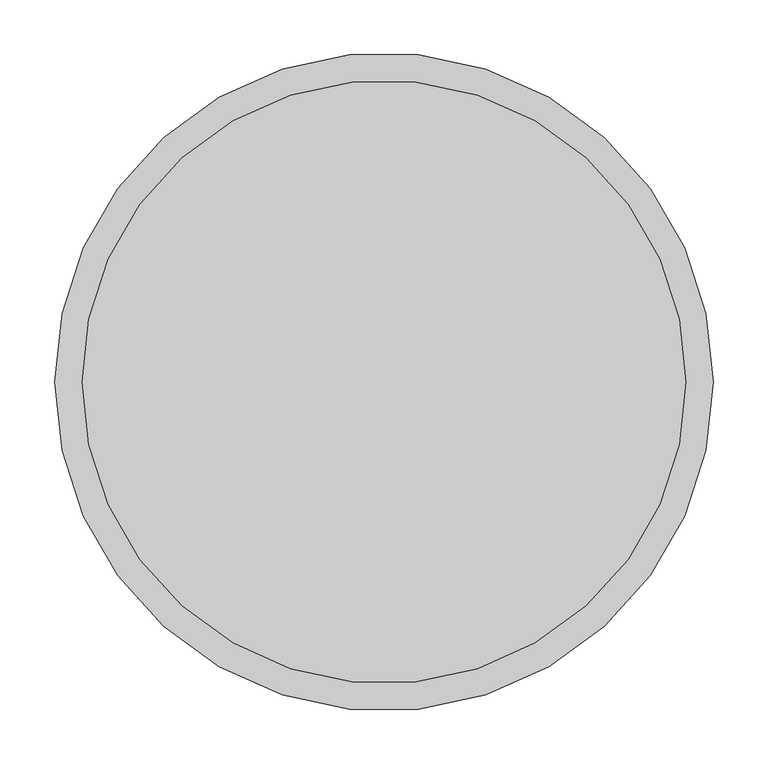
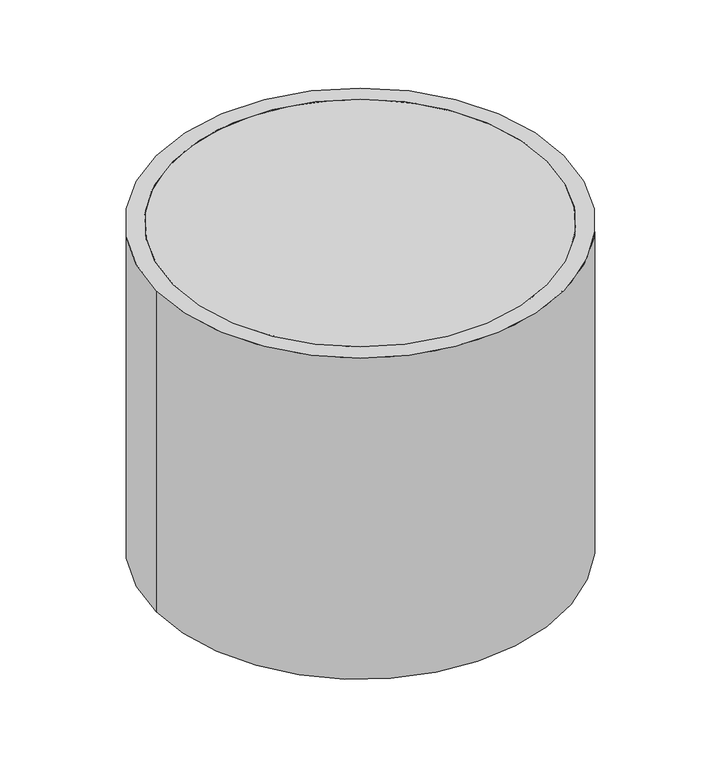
"""IFC4 building model written with IfcOpenShell, lengths in millimetres: proxy geometry, Technikschacht Schwachstrom : Technikschacht."""

import ifcopenshell
import ifcopenshell.guid

model = None  # the IFC model being written
_history = None  # IfcOwnerHistory: only IFC2X3 demands one
_inside = {}  # id of a spatial element -> (the spatial element, [elements in it])
_under = {}  # id of a project, library or spatial element -> (it, [spatial elements below it])
_declared = {}  # id of a project -> (the project, [libraries it declares])
_typed = {}  # id of a type object -> (the type object, [elements of that type])
_made_of = {}  # id of a material, layer set ... -> (it, [elements and type objects made of it])


def new_model(schema):
    """Start an empty IFC model of exactly this schema.

    Asked for "IFC4X3", IfcOpenShell would pick the latest addendum, in which some entities
    have other attributes; the version numbers below select the first issue.
    IFC2X3 requires an IfcOwnerHistory on every rooted entity: one is made here for all.
    """
    global model, _history
    if schema == "IFC4X3":
        model = ifcopenshell.file(schema_version=(4, 3, 0, 0))
    else:
        model = ifcopenshell.file(schema=schema)
    _inside.clear()
    _under.clear()
    _declared.clear()
    _typed.clear()
    _made_of.clear()
    _history = None
    if model.schema == "IFC2X3":
        org = make("IfcOrganization", Name="unknown")
        user = make(
            "IfcPersonAndOrganization",
            ThePerson=make("IfcPerson", FamilyName="unknown"),
            TheOrganization=org,
        )
        app = make(
            "IfcApplication",
            ApplicationDeveloper=org,
            Version="unknown",
            ApplicationFullName="unknown",
            ApplicationIdentifier="unknown",
        )
        _history = make(
            "IfcOwnerHistory",
            OwningUser=user,
            OwningApplication=app,
            ChangeAction="ADDED",
            CreationDate=0,
        )
    return model


def make(cls, **values):
    """One entity of the class cls with the attributes given. An attribute that is None is left unset."""
    return model.create_entity(
        cls, **{name: value for name, value in values.items() if value is not None}
    )


def rooted(cls, **values):
    """An entity with a GlobalId (a new one), such as an element, a storey or a relation."""
    return make(cls, GlobalId=ifcopenshell.guid.new(), OwnerHistory=_history, **values)


def si_unit(unit_type, name, prefix=None):
    """IfcSIUnit, for example si_unit("LENGTHUNIT", "METRE", prefix="MILLI")."""
    return make("IfcSIUnit", UnitType=unit_type, Prefix=prefix, Name=name)


def assignment(units):
    """IfcUnitAssignment: the units of a project."""
    return None if units is None else make("IfcUnitAssignment", Units=units)


def point(xyz):
    """IfcCartesianPoint."""
    return None if xyz is None else make("IfcCartesianPoint", Coordinates=xyz)


def direction(xyz):
    """IfcDirection."""
    return None if xyz is None else make("IfcDirection", DirectionRatios=xyz)


def frame(location, z_axis=None, x_axis=None):
    """IfcAxis2Placement3D, a coordinate frame: its origin and axes. An axis left out is left unset."""
    return make(
        "IfcAxis2Placement3D",
        Location=point(location),
        Axis=direction(z_axis),
        RefDirection=direction(x_axis),
    )


def frame_2d(location, x_axis=None):
    """IfcAxis2Placement2D, a coordinate frame in the plane: its origin and x axis."""
    return make(
        "IfcAxis2Placement2D", Location=point(location), RefDirection=direction(x_axis)
    )


def origin():
    """The frame at (0, 0, 0) with its axes left unset."""
    return frame((0.0, 0.0, 0.0))


def origin_2d():
    """The frame at (0, 0) in the plane with its x axis left unset."""
    return frame_2d((0.0, 0.0))


def place(relative_to, where):
    """IfcLocalPlacement: puts the frame where relative to a parent placement (None: the world)."""
    return make(
        "IfcLocalPlacement", PlacementRelTo=relative_to, RelativePlacement=where
    )


def context(
    kind, dimensions, precision=None, world=None, true_north=None, identifier=None
):
    """IfcGeometricRepresentationContext, for example the 3D "Model" context."""
    return make(
        "IfcGeometricRepresentationContext",
        ContextIdentifier=identifier,
        ContextType=kind,
        CoordinateSpaceDimension=dimensions,
        Precision=precision,
        WorldCoordinateSystem=world,
        TrueNorth=true_north,
    )


def project(units=None, contexts=None):
    """IfcProject with its units and contexts."""
    return rooted(
        "IfcProject",
        Name="project",
        RepresentationContexts=contexts,
        UnitsInContext=assignment(units),
    )


def spatial(cls, under=None, at=None, **own):
    """A site, building, storey or space (cls), placed at a placement, below another one or the project."""
    s = rooted(cls, ObjectPlacement=at, **own)
    if under is not None:
        _under.setdefault(under.id(), (under, []))[1].append(s)
    return s


def circle_curve(where, radius):
    """IfcCircle in the frame where."""
    return make("IfcCircle", Position=where, Radius=radius)


def trimmed(basis, trim1, trim2, sense, master):
    """IfcTrimmedCurve: the piece of a basis curve between two trims."""
    return make(
        "IfcTrimmedCurve",
        BasisCurve=basis,
        Trim1=trim1,
        Trim2=trim2,
        SenseAgreement=sense,
        MasterRepresentation=master,
    )


def segment(curve, same_sense, transition):
    """IfcCompositeCurveSegment."""
    return make(
        "IfcCompositeCurveSegment",
        Transition=transition,
        SameSense=same_sense,
        ParentCurve=curve,
    )


def composite_curve(segments, self_intersect=None):
    """IfcCompositeCurve: segments joined end to end."""
    return make("IfcCompositeCurve", Segments=segments, SelfIntersect=self_intersect)


def outline(outer, holes=None, kind="AREA"):
    """IfcArbitraryClosedProfileDef: a profile drawn as a closed curve; with holes, ...WithVoids."""
    if holes is None:
        return make("IfcArbitraryClosedProfileDef", ProfileType=kind, OuterCurve=outer)
    return make(
        "IfcArbitraryProfileDefWithVoids",
        ProfileType=kind,
        OuterCurve=outer,
        InnerCurves=holes,
    )


def extrude(swept, where, along, depth):
    """IfcExtrudedAreaSolid: the profile swept, set in the frame where, extruded along a direction by depth."""
    return make(
        "IfcExtrudedAreaSolid",
        SweptArea=swept,
        Position=where,
        ExtrudedDirection=direction(along),
        Depth=depth,
    )


def shape(context_of_items, identifier, shape_type, items):
    """IfcShapeRepresentation: the items that make up one representation, for example the "Body"."""
    return make(
        "IfcShapeRepresentation",
        ContextOfItems=context_of_items,
        RepresentationIdentifier=identifier,
        RepresentationType=shape_type,
        Items=items,
    )


def source(mapping_origin, context_of_items, identifier, shape_type, items):
    """IfcRepresentationMap: a shape defined once, which mapped items show again and again."""
    return make(
        "IfcRepresentationMap",
        MappingOrigin=mapping_origin,
        MappedRepresentation=shape(context_of_items, identifier, shape_type, items),
    )


def transform(
    local_origin,
    x_axis=None,
    y_axis=None,
    z_axis=None,
    scale=None,
    scale2=None,
    scale3=None,
    uniform=True,
):
    """IfcCartesianTransformationOperator3D, or its non-uniform kind. x_axis, y_axis, z_axis: its Axis1, 2, 3."""
    if uniform:
        return make(
            "IfcCartesianTransformationOperator3D",
            Axis1=direction(x_axis),
            Axis2=direction(y_axis),
            LocalOrigin=point(local_origin),
            Scale=scale,
            Axis3=direction(z_axis),
        )
    return make(
        "IfcCartesianTransformationOperator3DnonUniform",
        Axis1=direction(x_axis),
        Axis2=direction(y_axis),
        LocalOrigin=point(local_origin),
        Scale=scale,
        Axis3=direction(z_axis),
        Scale2=scale2,
        Scale3=scale3,
    )


def mapped(mapping_source, mapping_target):
    """IfcMappedItem: shows the shape of a source again, moved by a transform."""
    return make(
        "IfcMappedItem", MappingSource=mapping_source, MappingTarget=mapping_target
    )


def made_of(thing, what):
    """Note that an element or type object is made of a material, layer set ...; save() writes the relation."""
    if what is not None:
        _made_of.setdefault(what.id(), (what, []))[1].append(thing)
    return thing


def element(
    cls,
    number,
    at=None,
    inside=None,
    cuts=None,
    type_object=None,
    material=None,
    context=None,
    identifier="Body",
    shape_type=None,
    held_by="IfcProductDefinitionShape",
    body=None,
    shapes=None,
    **own,
):
    """One element of the class cls, such as IfcWall. Its Tag is "e" and its number.

    at: its placement. inside: the storey or other place that contains it. cuts: it is an
    opening in that element (IfcRelVoidsElement). A single representation is given by context,
    identifier, shape_type and body (its items); several are given by shapes. held_by: the class
    of the entity that holds the representations. save() writes the other relations.
    """
    e = rooted(cls, Tag="e%d" % number, ObjectPlacement=at, **own)
    if body is not None:
        shapes = [shape(context, identifier, shape_type, body)]
    if shapes is not None:
        e.Representation = make(held_by, Representations=shapes)
    if inside is not None:
        _inside.setdefault(inside.id(), (inside, []))[1].append(e)
    if cuts is not None:
        rooted(
            "IfcRelVoidsElement", RelatingBuildingElement=cuts, RelatedOpeningElement=e
        )
    if type_object is not None:
        _typed.setdefault(type_object.id(), (type_object, []))[1].append(e)
    return made_of(e, material)


def aggregate(whole, parts):
    """IfcRelAggregates: a whole, such as a stair, and the parts it consists of."""
    return rooted("IfcRelAggregates", RelatingObject=whole, RelatedObjects=parts)


def save(model, path):
    """Write the relations noted so far, then the file.

    IfcRelAggregates (storeys below a building ...), IfcRelContainedInSpatialStructure (elements
    in a storey), IfcRelDefinesByType, IfcRelAssociatesMaterial and IfcRelDeclares: one each for
    every whole, place, type object, material and project.
    """
    for whole, parts in _under.values():
        aggregate(whole, parts)
    for where, things in _inside.values():
        rooted(
            "IfcRelContainedInSpatialStructure",
            RelatedElements=things,
            RelatingStructure=where,
        )
    for kind, things in _typed.values():
        rooted("IfcRelDefinesByType", RelatedObjects=things, RelatingType=kind)
    for what, things in _made_of.values():
        rooted("IfcRelAssociatesMaterial", RelatedObjects=things, RelatingMaterial=what)
    for by, libraries in _declared.values():
        rooted("IfcRelDeclares", RelatingContext=by, RelatedDefinitions=libraries)
    model.write(path)


def electrical_fixtures_4c376501(model_context):
    return source(origin(), model_context, "Body", "SweptSolid", [
        extrude(outline(composite_curve([segment(trimmed(circle_curve(origin_2d(), 300.0), [point((-300.0, 0.0))], [point((300.0, 0.0))], False, "CARTESIAN"), True, "CONTINUOUS"), segment(trimmed(circle_curve(origin_2d(), 300.0), [point((300.0, 0.0))], [point((-300.0, 0.0))], False, "CARTESIAN"), True, "CONTINUOUS")], self_intersect=False), holes=[composite_curve([segment(trimmed(circle_curve(origin_2d(), 275.0), [point((-275.0, 0.0))], [point((275.0, 0.0))], True, "CARTESIAN"), True, "CONTINUOUS"), segment(trimmed(circle_curve(origin_2d(), 275.0), [point((275.0, 0.0))], [point((-275.0, 0.0))], True, "CARTESIAN"), True, "CONTINUOUS")], self_intersect=False)]), frame((0.0, 0.0, -500.0), z_axis=(0.0, 0.0, 1.0), x_axis=(1.0, 0.0, 0.0)), (0.0, 0.0, 1.0), 500.0),
        extrude(outline(composite_curve([segment(trimmed(circle_curve(origin_2d(), 275.0), [point((-275.0, 0.0))], [point((275.0, 0.0))], False, "CARTESIAN"), True, "CONTINUOUS"), segment(trimmed(circle_curve(origin_2d(), 275.0), [point((275.0, 0.0))], [point((-275.0, 0.0))], False, "CARTESIAN"), True, "CONTINUOUS")], self_intersect=False)), frame((0.0, 0.0, -500.0), z_axis=(0.0, 0.0, 1.0), x_axis=(1.0, 0.0, 0.0)), (0.0, 0.0, 1.0), 50.0),
        extrude(outline(composite_curve([segment(trimmed(circle_curve(origin_2d(), 275.0), [point((-275.0, 0.0))], [point((275.0, 0.0))], False, "CARTESIAN"), True, "CONTINUOUS"), segment(trimmed(circle_curve(origin_2d(), 275.0), [point((275.0, 0.0))], [point((-275.0, 0.0))], False, "CARTESIAN"), True, "CONTINUOUS")], self_intersect=False)), frame((0.0, 0.0, -61.0584239), z_axis=(0.0, 0.0, 1.0), x_axis=(1.0, 0.0, 0.0)), (0.0, 0.0, 1.0), 61.0584239),
    ])


if __name__ == "__main__":
    model = new_model("IFC4")
    model_context = context("Model", 3, world=origin())
    ifc_project = project(units=[si_unit("LENGTHUNIT", "METRE", prefix="MILLI")], contexts=[model_context])
    site = spatial("IfcSite", under=ifc_project)
    building = spatial("IfcBuilding", under=site)
    placement = place(None, origin())
    electrical_fixtures_shape = electrical_fixtures_4c376501(model_context)
    element("IfcBuildingElementProxy", 1, Name="Technikschacht Schwachstrom : Technikschacht", ObjectType="Technikschacht Schwachstrom : Technikschacht", at=placement, inside=building, context=model_context, shape_type="MappedRepresentation", body=[
        mapped(electrical_fixtures_shape, transform((0.0, 0.0, 0.0), x_axis=(1.0, 0.0, 0.0), y_axis=(0.0, 1.0, 0.0), z_axis=(0.0, 0.0, 1.0))),
    ])
    save(model, "model.ifc")
